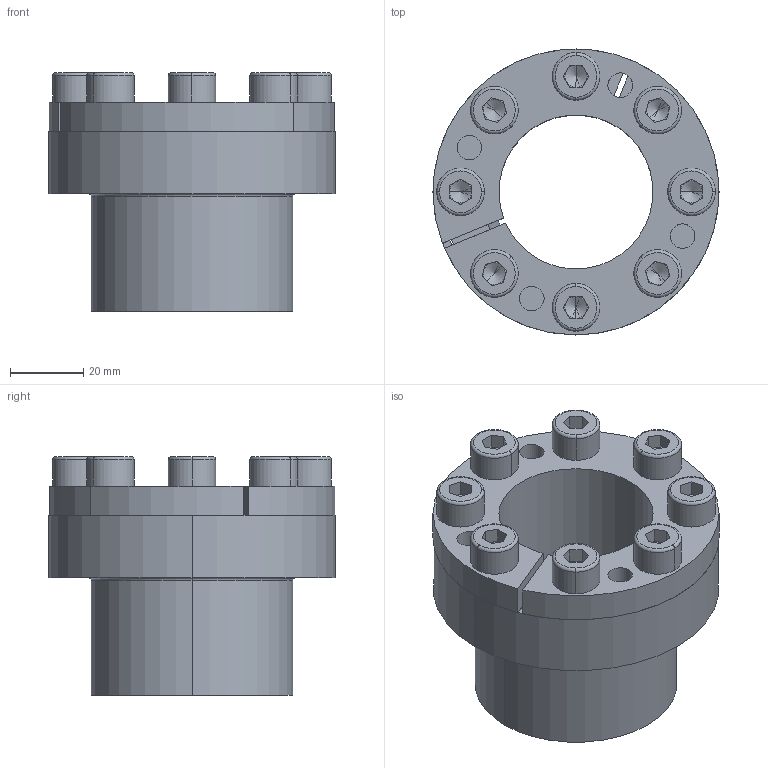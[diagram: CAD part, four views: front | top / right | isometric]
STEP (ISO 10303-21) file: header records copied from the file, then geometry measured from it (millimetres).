
FILE_DESCRIPTION (( 'STEP AP214' ), '1' );
FILE_NAME ('CONEX-B-42x55-CN-55-025.STEP', '2014-04-03T10:49:42', ( 'Pc' ), ( '' ), 'SwSTEP 2.0', 'SolidWorks 2013', '' );
FILE_SCHEMA (( 'AUTOMOTIVE_DESIGN' ));
Length unit declared in the file: millimetre
Products named in the file (1): CONEX-B-42x55-CN-55-025
Bounding box: 78 x 78 x 65.02 mm (x, y, z)
Volume: 108205.7 mm3; surface area: 62758.6 mm2
Topology: 11 solids, 11 shells, 310 faces, 734 edges, 438 vertices
Faces by surface type: plane 132, cylinder 88, torus 44, cone 38, bspline 8
Entity records: 12702 total; most frequent: CARTESIAN_POINT 1827, DIRECTION 1674, ORIENTED_EDGE 1436, EDGE_CURVE 718, AXIS2_PLACEMENT_3D 671, VERTEX_POINT 438, CIRCLE 368, EDGE_LOOP 360
